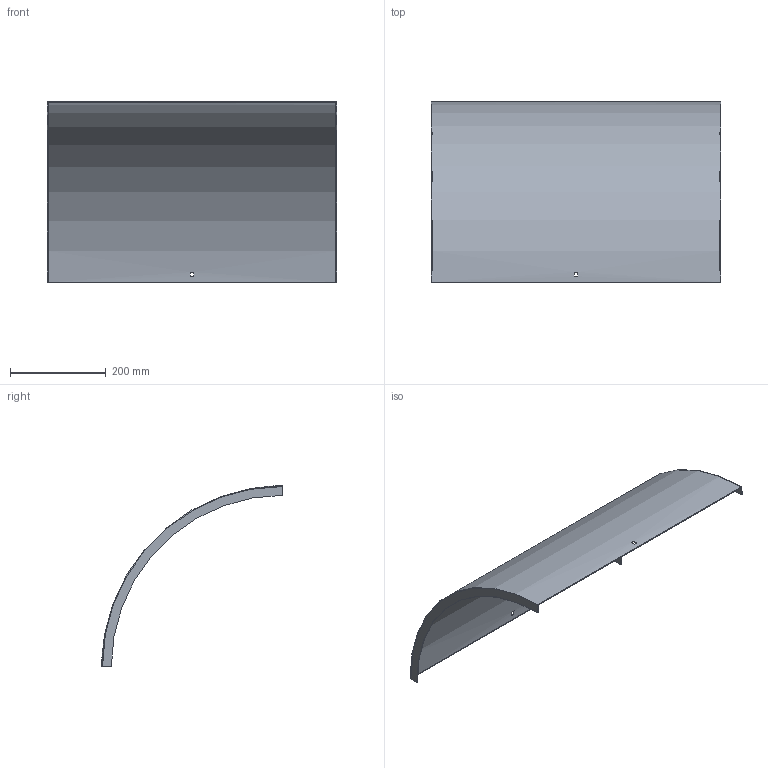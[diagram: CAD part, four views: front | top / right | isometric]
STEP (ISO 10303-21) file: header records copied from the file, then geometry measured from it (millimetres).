
FILE_DESCRIPTION (( 'STEP AP214' ), '1' );
FILE_NAME ('B2_33N3C600.step', '2025-02-21T10:46:39', ( '' ), ( '' ), 'SwSTEP 2.0', 'SolidWorks 2023', '' );
FILE_SCHEMA (( 'AUTOMOTIVE_DESIGN' ));
Length unit declared in the file: millimetre
Products named in the file (1): B2_33N3C600
Bounding box: 603 x 376.5 x 376.5 mm (x, y, z)
Volume: 565570.2 mm3; surface area: 757790.2 mm2
Topology: 1 solids, 1 shells, 18 faces, 48 edges, 32 vertices
Faces by surface type: plane 14, cylinder 4
Entity records: 599 total; most frequent: DIRECTION 102, CARTESIAN_POINT 99, ORIENTED_EDGE 96, EDGE_CURVE 48, AXIS2_PLACEMENT_3D 35, VERTEX_POINT 32, LINE 32, VECTOR 32
